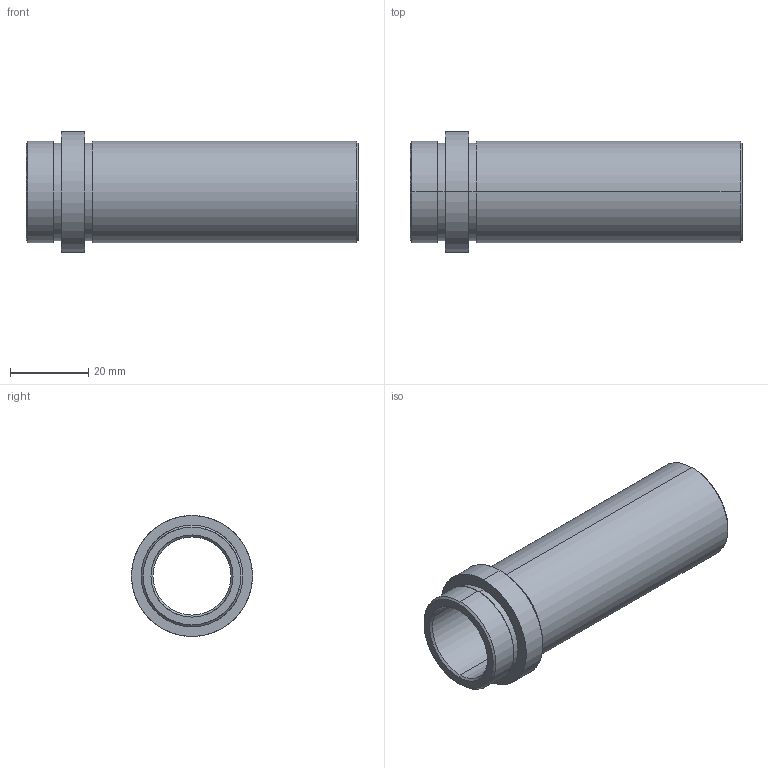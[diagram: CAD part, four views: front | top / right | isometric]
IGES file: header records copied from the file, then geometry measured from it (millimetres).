
Start section: SolidWorks IGES FILE using analytic representation for surfaces
Global section: file name: D:\zzzzz\Delta\D21\20\D21 - 20x76.IGS; native system: SolidWorks 2004 by SolidWorks Corporation; preprocessor: Version 5.3; author: Hkn; date: 080326.192006; units: millimetre
Bounding box: 85 x 31 x 31 mm (x, y, z)
Surface area: 13322.1 mm2 (no closed solid volume)
Topology: 0 solids, 0 shells, 26 faces, 528 edges, 528 vertices
Faces by surface type: revolution 20, bspline 6
